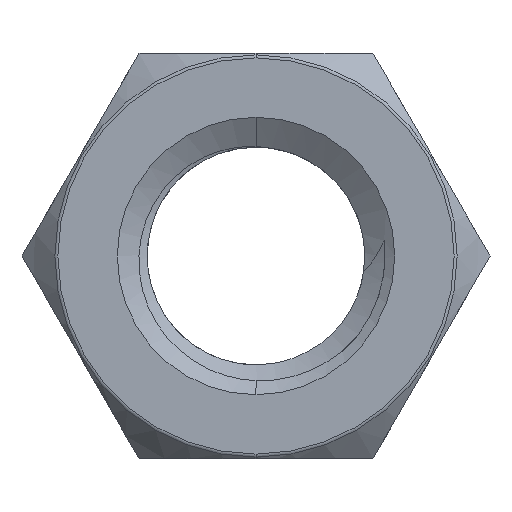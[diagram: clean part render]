
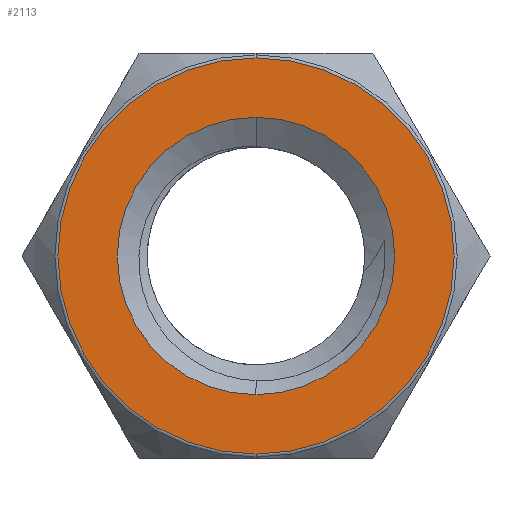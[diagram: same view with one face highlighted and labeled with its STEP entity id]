
A CAD part, front view. The second image highlights one B-rep face of the part: STEP entity #2113.
In plain terms, the highlighted planar face has unit normal (0, -1, 0).
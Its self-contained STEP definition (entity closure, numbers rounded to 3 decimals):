
#119 = CARTESIAN_POINT ( 'NONE',  ( 0., -4.25, 6.5 ) ) ;
#159 = EDGE_LOOP ( 'NONE', ( #2337, #2543 ) ) ;
#209 = VERTEX_POINT ( 'NONE', #2889 ) ;
#212 = EDGE_CURVE ( 'NONE', #994, #209, #985, .T. ) ;
#241 = CARTESIAN_POINT ( 'NONE',  ( 0., -4.25, -6.5 ) ) ;
#336 = CIRCLE ( 'NONE', #484, 6.5 ) ;
#391 = CARTESIAN_POINT ( 'NONE',  ( 0., -4.25, 0. ) ) ;
#411 = DIRECTION ( 'NONE',  ( 0., 0., 1. ) ) ;
#424 = DIRECTION ( 'NONE',  ( 0., 1., 0. ) ) ;
#457 = AXIS2_PLACEMENT_3D ( 'NONE', #845, #2663, #1503 ) ;
#459 = FACE_OUTER_BOUND ( 'NONE', #159, .T. ) ;
#477 = DIRECTION ( 'NONE',  ( 0., -1., 0. ) ) ;
#484 = AXIS2_PLACEMENT_3D ( 'NONE', #391, #1298, #1082 ) ;
#509 = EDGE_CURVE ( 'NONE', #1117, #1589, #2114, .T. ) ;
#649 = EDGE_LOOP ( 'NONE', ( #2405, #2590 ) ) ;
#665 = FACE_BOUND ( 'NONE', #649, .T. ) ;
#822 = AXIS2_PLACEMENT_3D ( 'NONE', #1967, #477, #1382 ) ;
#845 = CARTESIAN_POINT ( 'NONE',  ( 0., -4.25, 0. ) ) ;
#985 = CIRCLE ( 'NONE', #457, 9.287 ) ;
#994 = VERTEX_POINT ( 'NONE', #1494 ) ;
#1082 = DIRECTION ( 'NONE',  ( 0., 0., -1. ) ) ;
#1107 = DIRECTION ( 'NONE',  ( 0., -1., 0. ) ) ;
#1117 = VERTEX_POINT ( 'NONE', #241 ) ;
#1290 = DIRECTION ( 'NONE',  ( 0., 0., -1. ) ) ;
#1298 = DIRECTION ( 'NONE',  ( 0., -1., 0. ) ) ;
#1382 = DIRECTION ( 'NONE',  ( 0., 0., 1. ) ) ;
#1494 = CARTESIAN_POINT ( 'NONE',  ( 0., -4.25, 9.287 ) ) ;
#1503 = DIRECTION ( 'NONE',  ( 0., 0., 1. ) ) ;
#1589 = VERTEX_POINT ( 'NONE', #119 ) ;
#1750 = EDGE_CURVE ( 'NONE', #209, #994, #2634, .T. ) ;
#1769 = AXIS2_PLACEMENT_3D ( 'NONE', #1786, #424, #411 ) ;
#1786 = CARTESIAN_POINT ( 'NONE',  ( 0., -4.25, 0. ) ) ;
#1967 = CARTESIAN_POINT ( 'NONE',  ( 0., -4.25, 0. ) ) ;
#1978 = CARTESIAN_POINT ( 'NONE',  ( 0., -4.25, 0. ) ) ;
#2037 = PLANE ( 'NONE',  #1769 ) ;
#2113 = ADVANCED_FACE ( 'NONE', ( #459, #665 ), #2037, .F. ) ;
#2114 = CIRCLE ( 'NONE', #2723, 6.5 ) ;
#2337 = ORIENTED_EDGE ( 'NONE', *, *, #212, .T. ) ;
#2370 = EDGE_CURVE ( 'NONE', #1589, #1117, #336, .T. ) ;
#2405 = ORIENTED_EDGE ( 'NONE', *, *, #2370, .F. ) ;
#2543 = ORIENTED_EDGE ( 'NONE', *, *, #1750, .T. ) ;
#2590 = ORIENTED_EDGE ( 'NONE', *, *, #509, .F. ) ;
#2634 = CIRCLE ( 'NONE', #822, 9.287 ) ;
#2663 = DIRECTION ( 'NONE',  ( 0., -1., 0. ) ) ;
#2723 = AXIS2_PLACEMENT_3D ( 'NONE', #1978, #1107, #1290 ) ;
#2889 = CARTESIAN_POINT ( 'NONE',  ( 0., -4.25, -9.287 ) ) ;
